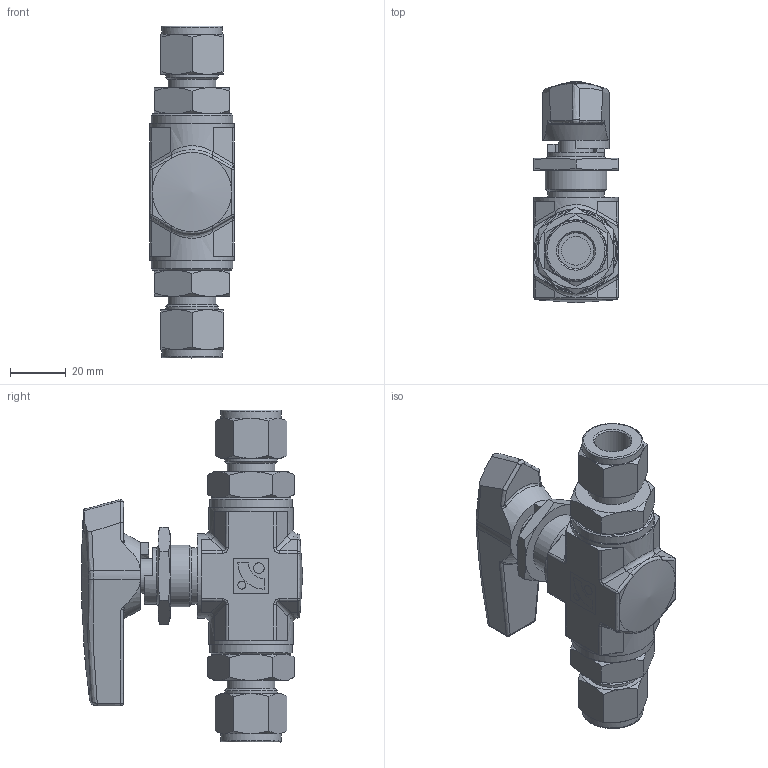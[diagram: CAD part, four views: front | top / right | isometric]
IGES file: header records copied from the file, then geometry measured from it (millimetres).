
Global section: file name: SBVF3603-S8; native system: Autodesk Inventor 2016; preprocessor: unknown; author: DESIGNPC2; date: 20160610.190615; units: millimetre
Bounding box: 30.2 x 79.3 x 119.01 mm (x, y, z)
Volume: 97086.2 mm3; surface area: 28449.1 mm2
Topology: 6 solids, 6 shells, 550 faces, 1386 edges, 886 vertices
Faces by surface type: bspline 550
